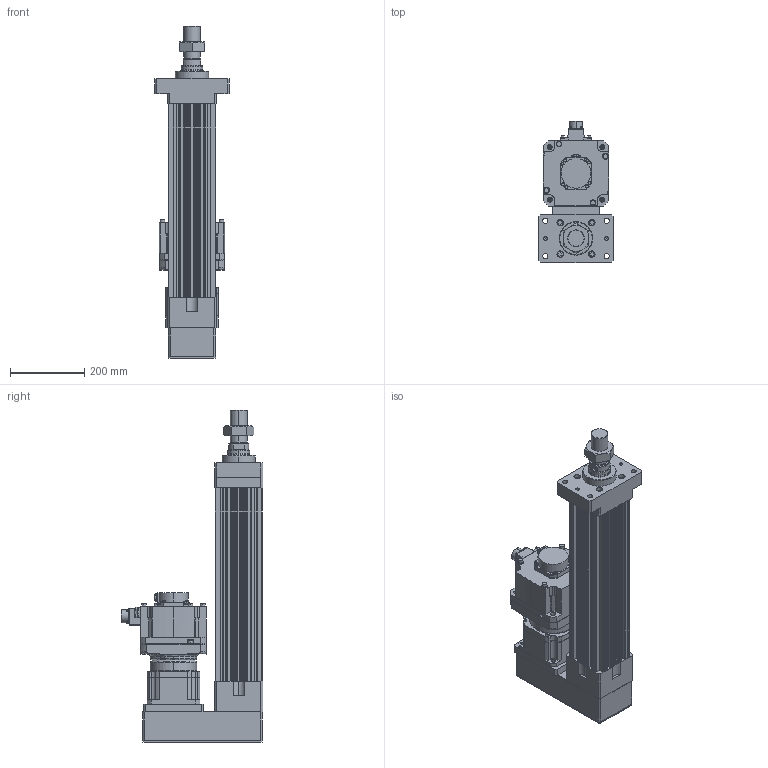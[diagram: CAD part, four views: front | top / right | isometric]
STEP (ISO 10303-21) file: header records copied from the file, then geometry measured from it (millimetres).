
FILE_DESCRIPTION (( 'STEP AP203' ), '1' );
FILE_NAME ('HES130FS(HS)-P300-W020G00-M-FMA.STEP', '2023-01-30T06:19:49', ( 'tms' ), ( '' ), 'SwSTEP 2.0', 'SolidWorks 2013', '' );
FILE_SCHEMA (( 'CONFIG_CONTROL_DESIGN' ));
Length unit declared in the file: millimetre
Products named in the file (9): P1301500001; AB142-003[HG-SR352]; HES130-P300-G142-FMA; AB1421; HES130 ROD M ST300; M45X1.5P; P0403500801; HG-SR202; HES130FS(HS)-P300-W020G00-M-FMA
Assembly tree (8 placements, depth 3):
  HES130FS(HS)-P300-W020G00-M-FMA
    HES130-P300-G142-FMA
    HES130 ROD M ST300
    M45X1.5P
    AB142-003[HG-SR352]
      AB1421
      P1301500001
      P0403500801
    HG-SR202
Bounding box: 200 x 381.85 x 894 mm (x, y, z)
Volume: 12888260.2 mm3; surface area: 1473356.9 mm2
Topology: 4 solids, 18 shells, 1401 faces, 3660 edges, 2370 vertices
Faces by surface type: cylinder 643, plane 530, cone 146, bspline 76, torus 6
Entity records: 52014 total; most frequent: CARTESIAN_POINT 16222, DIRECTION 7460, ORIENTED_EDGE 7222, EDGE_CURVE 3633, AXIS2_PLACEMENT_3D 2825, VERTEX_POINT 2370, VECTOR 1810, LINE 1810
